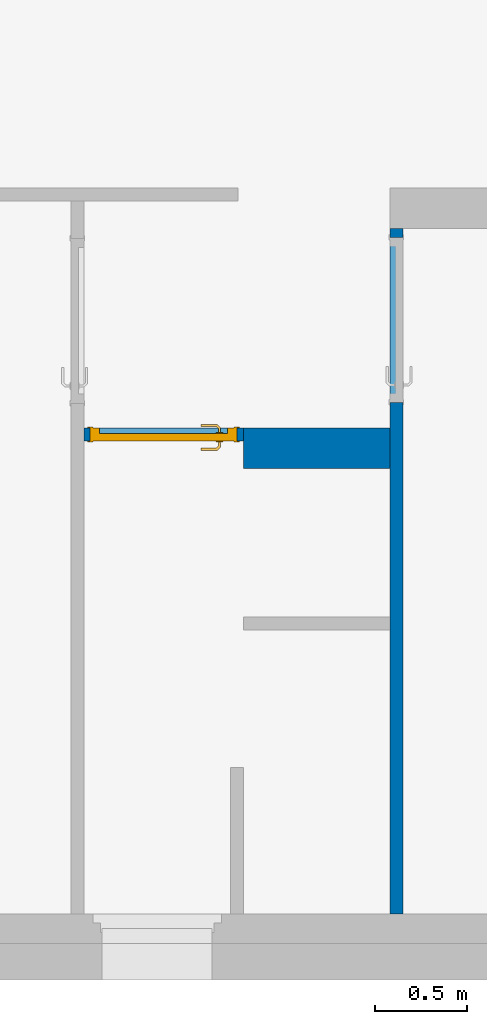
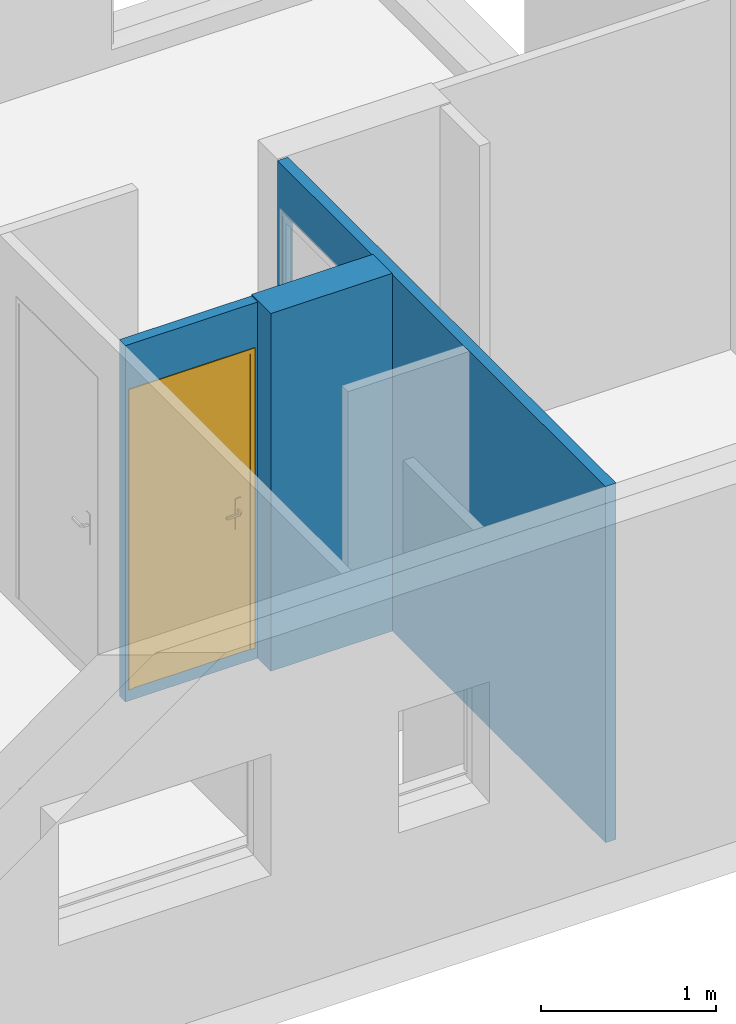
"""IFC2X3 building model written with IfcOpenShell, lengths in centimetres."""

from ifc_helpers import new_model, entity, si_unit, converted_unit, derived_unit, direction, frame, frame_2d, origin, place, context, subcontext, project, spatial, polyline, rectangle, extrude, clip, bounded_halfspace, faceted_brep, source, transform, mapped, material, material_list, layer, layer_set, layer_usage, type_object, type_shapes, element, fill, save


model = new_model("IFC2X3")

# Units and contexts
model_context = context("Model", 3, precision=0.001, world=origin(), true_north=direction((6.12303176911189e-17, 1.0)))
body_context = subcontext(model_context, "Body", "Model", "MODEL_VIEW")
ifc_project = project(units=[si_unit("LENGTHUNIT", "METRE", prefix="CENTI"), si_unit("AREAUNIT", "SQUARE_METRE"), si_unit("VOLUMEUNIT", "CUBIC_METRE"), converted_unit("PLANEANGLEUNIT", "DEGREE", entity("IfcRatioMeasure", 0.0174532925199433), si_unit("PLANEANGLEUNIT", "RADIAN"), dimensions=[0, 0, 0, 0, 0, 0, 0]), si_unit("MASSUNIT", "GRAM", prefix="KILO"), derived_unit("MASSDENSITYUNIT", [(si_unit("MASSUNIT", "GRAM", prefix="KILO"), 1), (si_unit("LENGTHUNIT", "METRE"), -3)]), derived_unit("MOMENTOFINERTIAUNIT", [(si_unit("LENGTHUNIT", "METRE"), 4)]), si_unit("TIMEUNIT", "SECOND"), si_unit("FREQUENCYUNIT", "HERTZ"), si_unit("THERMODYNAMICTEMPERATUREUNIT", "DEGREE_CELSIUS"), derived_unit("THERMALTRANSMITTANCEUNIT", [(si_unit("MASSUNIT", "GRAM", prefix="KILO"), 1), (si_unit("THERMODYNAMICTEMPERATUREUNIT", "KELVIN"), -1), (si_unit("TIMEUNIT", "SECOND"), -3)]), derived_unit("VOLUMETRICFLOWRATEUNIT", [(si_unit("LENGTHUNIT", "METRE"), 3), (si_unit("TIMEUNIT", "SECOND"), -1)]), si_unit("ELECTRICCURRENTUNIT", "AMPERE"), si_unit("ELECTRICVOLTAGEUNIT", "VOLT"), si_unit("POWERUNIT", "WATT"), si_unit("FORCEUNIT", "NEWTON", prefix="KILO"), si_unit("ILLUMINANCEUNIT", "LUX"), si_unit("LUMINOUSFLUXUNIT", "LUMEN"), si_unit("LUMINOUSINTENSITYUNIT", "CANDELA"), derived_unit("USERDEFINED", [(si_unit("MASSUNIT", "GRAM", prefix="KILO"), -1), (si_unit("LENGTHUNIT", "METRE"), -2), (si_unit("TIMEUNIT", "SECOND"), 3), (si_unit("LUMINOUSFLUXUNIT", "LUMEN"), 1)]), derived_unit("LINEARVELOCITYUNIT", [(si_unit("LENGTHUNIT", "METRE"), 1), (si_unit("TIMEUNIT", "SECOND"), -1)]), si_unit("PRESSUREUNIT", "PASCAL"), derived_unit("USERDEFINED", [(si_unit("LENGTHUNIT", "METRE"), -2), (si_unit("MASSUNIT", "GRAM", prefix="KILO"), 1), (si_unit("TIMEUNIT", "SECOND"), -2)]), derived_unit("LINEARFORCEUNIT", [(si_unit("MASSUNIT", "GRAM", prefix="KILO"), 1), (si_unit("LENGTHUNIT", "METRE"), 1), (si_unit("TIMEUNIT", "SECOND"), -2), (si_unit("LENGTHUNIT", "METRE"), -1)]), derived_unit("PLANARFORCEUNIT", [(si_unit("MASSUNIT", "GRAM", prefix="KILO"), 1), (si_unit("LENGTHUNIT", "METRE"), 1), (si_unit("TIMEUNIT", "SECOND"), -2), (si_unit("LENGTHUNIT", "METRE"), -2)])], contexts=[model_context])

# Site, building, storey
site_placement = place(None, origin())
site = spatial("IfcSite", under=ifc_project, at=site_placement, Name="Surface", CompositionType="ELEMENT")
building_placement = place(site_placement, origin())
building = spatial("IfcBuilding", under=site, at=building_placement, CompositionType="ELEMENT")
storey_1_placement = place(building_placement, frame((0.0, 0.0, -8.0)))
storey_1 = spatial("IfcBuildingStorey", under=building, at=storey_1_placement, Name="-0.08_Dessus plancher", CompositionType="ELEMENT", Elevation=-8.0)

# Wall
ifc_material_1 = material(Name="Plâtre")
ifc_layer_1 = layer(ifc_material_1, 1.0)
ifc_material_2 = material(Name="Mur par défaut")
ifc_layer_2 = layer(ifc_material_2, 20.0)
ifc_layer_3 = layer(ifc_material_1, 1.0)
ifc_layer_set_1 = layer_set([ifc_layer_1, ifc_layer_2, ifc_layer_3], Name="Mur de base:Mur refend 22")
ifc_layer_usage_1 = layer_usage(ifc_layer_set_1, "AXIS2", "NEGATIVE", 11.0)
wall_type_1 = type_object("IfcWallType", Name="Mur de base:Mur refend 22", PredefinedType="STANDARD", material=ifc_layer_set_1)
wall_1_placement = place(storey_1_placement, frame((-1075.17726031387, 130.992317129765, 0.0)))
element("IfcWallStandardCase", 1, at=wall_1_placement, inside=storey_1, type_object=wall_type_1, material=ifc_layer_usage_1, Name="Mur de base:Mur refend 22", ObjectType="Mur de base:Mur refend 22", context=body_context, shape_type="Clipping", body=[
    clip(extrude(rectangle(XDim=79.9999999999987, YDim=22.0, at=frame_2d((39.9999999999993, -4.44089209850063e-15), x_axis=(-1.0, 0.0))), origin(), (0.0, 0.0, 1.0), 249.0), bounded_halfspace(frame((0.0, -11.0, 249.0), z_axis=(0.0, 0.0, -1.0), x_axis=(0.0, -1.0, 0.0)), True, frame((0.0, -11.0, 249.0)), polyline([(0.0, 0.0), (80.0, 0.0), (80.0, 22.0), (0.0, 22.0), (0.0, 0.0)]))),
])

# Wall, openings
ifc_layer_4 = layer(ifc_material_2, 7.0)
ifc_layer_set_2 = layer_set([ifc_layer_4], Name="Mur de base:Cloison 7cm")
ifc_layer_usage_2 = layer_usage(ifc_layer_set_2, "AXIS2", "POSITIVE", -3.5)
wall_type_2 = type_object("IfcWallType", Name="Mur de base:Cloison 7cm", PredefinedType="STANDARD", material=ifc_layer_set_2)
wall_2_placement = place(storey_1_placement, frame((-991.677260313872, 250.992317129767, 0.0), z_axis=(0.0, 0.0, 1.0), x_axis=(0.0, -1.0, 0.0)))
wall_2 = element("IfcWallStandardCase", 2, at=wall_2_placement, inside=storey_1, type_object=wall_type_2, material=ifc_layer_usage_2, Name="Mur de base:Cloison 7cm", ObjectType="Mur de base:Cloison 7cm", context=body_context, shape_type="SweptSolid", body=[
    extrude(rectangle(XDim=373.999999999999, YDim=7.00000000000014, at=frame_2d((186.999999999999, -5.24025267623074e-14), x_axis=(-1.0, 0.0))), origin(), (0.0, 0.0, 1.0), 248.0),
])
opening_1_placement = place(wall_2_placement, frame((250.992317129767, 991.677260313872, 8.0), z_axis=(0.0, 0.0, 1.0), x_axis=(0.0, 1.0, 0.0)))
element("IfcOpeningElement", 3, at=opening_1_placement, cuts=wall_2, Name="Mur de base:Cloison 7cm", ObjectType="Opening", context=body_context, shape_type="SweptSolid", body=[
    extrude(rectangle(XDim=207.5, YDim=90.0, at=frame_2d((-1.4210854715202e-14, 1.4210854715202e-14), x_axis=(1.0, 0.0))), frame((-1140.57726031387, 200.992317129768, 103.75), z_axis=(1.0, 0.0, 0.0), x_axis=(0.0, 0.0, 1.0)), (0.0, 0.0, 1.0), 304.8),
])
opening_2_placement = place(wall_2_placement, frame((5.0, -3.50000000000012, 8.0)))
element("IfcOpeningElement", 4, at=opening_2_placement, cuts=wall_2, Name="Int. Simple:PP (0.83m x 2.04m):1", ObjectType="Opening", context=body_context, shape_type="SweptSolid", body=[
    extrude(rectangle(XDim=207.5, YDim=90.0, at=frame_2d((103.75, 45.0), x_axis=(1.0, 0.0))), frame((0.0, 0.0, 0.0), z_axis=(0.0, 1.0, 0.0), x_axis=(0.0, 0.0, 1.0)), (0.0, 0.0, 1.0), 7.0),
])

ifc_layer_usage_3 = layer_usage(ifc_layer_set_2, "AXIS2", "NEGATIVE", 3.5)
wall_3_placement = place(storey_1_placement, frame((-1075.17726031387, 138.492317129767, 0.0), z_axis=(0.0, 0.0, 1.0), x_axis=(-1.0, 0.0, 0.0)))
wall_3 = element("IfcWallStandardCase", 5, at=wall_3_placement, inside=storey_1, type_object=wall_type_2, material=ifc_layer_usage_3, Name="Mur de base:Cloison 7cm", ObjectType="Mur de base:Cloison 7cm", context=body_context, shape_type="SweptSolid", body=[
    extrude(rectangle(XDim=86.9999999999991, YDim=6.99999999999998, at=frame_2d((43.4999999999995, 0.0), x_axis=(-1.0, 0.0))), origin(), (0.0, 0.0, 1.0), 248.0),
])
opening_3_placement = place(wall_3_placement, frame((-1075.17726031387, 138.492317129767, 8.0), z_axis=(0.0, 0.0, 1.0), x_axis=(-1.0, 0.0, 0.0)))
element("IfcOpeningElement", 6, at=opening_3_placement, cuts=wall_3, Name="Mur de base:Cloison 7cm", ObjectType="Opening", context=body_context, shape_type="SweptSolid", body=[
    extrude(rectangle(XDim=207.5, YDim=80.0, at=frame_2d((0.0, 0.0), x_axis=(0.0, 1.0))), frame((-1118.67726031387, 287.392317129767, 103.75), z_axis=(0.0, -1.0, 0.0), x_axis=(1.0, 0.0, 0.0)), (0.0, 0.0, 1.0), 304.8),
])
opening_4_placement = place(wall_3_placement, frame((3.49999999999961, -3.50000000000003, 8.0)))
opening_4 = element("IfcOpeningElement", 7, at=opening_4_placement, cuts=wall_3, Name="Int. Simple:PP (0.73m x 2.04m):1", ObjectType="Opening", context=body_context, shape_type="SweptSolid", body=[
    extrude(rectangle(XDim=207.5, YDim=79.9999999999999, at=frame_2d((103.75, 40.0), x_axis=(1.0, 0.0))), frame((0.0, 0.0, 0.0), z_axis=(0.0, 1.0, 0.0), x_axis=(0.0, 0.0, 1.0)), (0.0, 0.0, 1.0), 7.0),
])

# Storey
storey_2_placement = place(building_placement, origin())
storey_2 = spatial("IfcBuildingStorey", under=building, at=storey_2_placement, Name="1_Rez-de-chaussée", CompositionType="ELEMENT", Elevation=-7.93413063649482e-11)

# Door
ifc_material_3 = material(Name="Finition Peinture - Blanc satiné")
ifc_material_4 = material(Name="Bois - Panneau de porte")
ifc_material_5 = material(Name="Bois - Cadre de porte")
ifc_material_list_1 = material_list([ifc_material_3, ifc_material_4, ifc_material_5])
ifc_material_list_2 = material_list([ifc_material_3, ifc_material_5, ifc_material_4])
door_style = type_object("IfcDoorStyle", Name="Int. Simple:PP (0.73m x 2.04m)", ConstructionType="NOTDEFINED", OperationType="NOTDEFINED", ParameterTakesPrecedence=False, Sizeable=False, material=ifc_material_list_2)
shared_shape = source(origin(), body_context, "Body", "Brep", [
    faceted_brep([(79.5000000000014, -0.500000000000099, 87.0), (79.5000000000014, -0.500000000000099, 108.0), (78.5352761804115, -0.500000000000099, 108.399601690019), (77.5000000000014, -0.500000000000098, 108.535898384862), (76.4647238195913, -0.500000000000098, 108.399601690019), (75.5000000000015, -0.500000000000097, 108.0), (75.5000000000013, -0.500000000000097, 87.0), (76.4647238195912, -0.500000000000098, 86.6003983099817), (77.5000000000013, -0.500000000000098, 86.464101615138), (78.5352761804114, -0.500000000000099, 86.6003983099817), (79.5000000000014, 0.0, 108.0), (79.5000000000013, 0.0, 87.0), (78.5352761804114, 0.0, 86.6003983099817), (77.5000000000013, 0.0, 86.464101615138), (76.4647238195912, 0.0, 86.6003983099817), (75.5000000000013, 0.0, 87.0), (75.5000000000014, 0.0, 108.0), (76.4647238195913, 0.0, 108.399601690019), (77.5000000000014, 0.0, 108.535898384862), (78.5352761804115, 0.0, 108.399601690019)], [[[0, 1, 2, 3, 4, 5, 6, 7, 8, 9]], [[10, 11, 12, 13, 14, 15, 16, 17, 18, 19]], [[9, 12, 11, 0]], [[8, 13, 12, 9]], [[7, 14, 13, 8]], [[7, 6, 15, 14]], [[15, 6, 5, 16]], [[4, 17, 16, 5]], [[3, 18, 17, 4]], [[2, 19, 18, 3]], [[2, 1, 10, 19]], [[11, 10, 1, 0]]]),
    faceted_brep([(79.5000000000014, 4.0, 87.0), (79.5000000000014, 4.0, 108.0), (78.5352761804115, 4.0, 108.399601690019), (77.5000000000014, 4.0, 108.535898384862), (76.4647238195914, 4.0, 108.399601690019), (75.5000000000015, 4.0, 108.0), (75.5000000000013, 4.0, 87.0), (76.4647238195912, 4.0, 86.6003983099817), (77.5000000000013, 4.0, 86.464101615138), (78.5352761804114, 4.0, 86.6003983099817), (77.5000000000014, 4.4999999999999, 108.535898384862), (78.5352761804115, 4.4999999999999, 108.399601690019), (79.5000000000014, 4.4999999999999, 108.0), (79.5000000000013, 4.4999999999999, 87.0), (78.5352761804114, 4.4999999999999, 86.6003983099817), (77.5000000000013, 4.4999999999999, 86.464101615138), (76.4647238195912, 4.4999999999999, 86.6003983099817), (75.5000000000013, 4.4999999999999, 87.0), (75.5000000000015, 4.4999999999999, 108.0), (76.4647238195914, 4.4999999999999, 108.399601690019)], [[[0, 1, 2, 3, 4, 5, 6, 7, 8, 9]], [[10, 11, 12, 13, 14, 15, 16, 17, 18, 19]], [[4, 19, 18, 5]], [[3, 10, 19, 4]], [[2, 11, 10, 3]], [[2, 1, 12, 11]], [[13, 12, 1, 0]], [[9, 14, 13, 0]], [[8, 15, 14, 9]], [[7, 16, 15, 8]], [[7, 6, 17, 16]], [[17, 6, 5, 18]]]),
    faceted_brep([(77.2974701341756, -0.500000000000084, 100.778044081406), (77.7025298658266, -0.500000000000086, 100.778044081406), (78.1000000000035, -0.500000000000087, 100.699999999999), (78.1000000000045, -0.500000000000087, 99.2999999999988), (77.7025298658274, -0.500000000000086, 99.221955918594), (77.2974701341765, -0.500000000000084, 99.2219559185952), (76.8999999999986, -0.500000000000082, 99.3000000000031), (76.8999999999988, -0.500000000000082, 100.7), (77.7025298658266, -3.10045754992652, 100.778044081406), (78.1000000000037, -3.26509507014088, 100.7), (77.2974701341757, -2.93267631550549, 100.778044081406), (75.9298602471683, -4.30028620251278, 100.778044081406), (76.0976414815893, -4.7053459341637, 100.778044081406), (76.8999999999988, -2.76803879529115, 100.7), (76.8999999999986, -2.76803879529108, 99.3000000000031), (77.2974701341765, -2.93267631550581, 99.2219559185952), (77.7025298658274, -3.10045754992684, 99.221955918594), (76.0976414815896, -4.70534593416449, 99.221955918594), (75.9298602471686, -4.30028620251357, 99.2219559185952), (78.1000000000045, -3.26509507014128, 99.2999999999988), (76.2622790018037, -5.1028160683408, 100.7), (75.7652227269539, -3.90281606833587, 100.7), (75.7652227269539, -3.90281606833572, 99.3000000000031), (76.262279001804, -5.10281606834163, 99.2999999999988), (67.4981359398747, -5.10281606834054, 100.7), (67.4981359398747, -4.70534593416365, 100.778044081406), (67.4981359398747, -4.30028620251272, 100.778044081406), (67.4981359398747, -3.90281606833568, 100.699999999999), (67.4981359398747, -3.90281606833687, 99.3000000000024), (67.4981359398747, -4.30028620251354, 99.2219559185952), (67.4981359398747, -4.70534593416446, 99.221955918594), (67.4981359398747, -5.10281606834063, 99.2999999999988), (71.713998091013, -4.50281606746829, 100.78786867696), (72.2692302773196, -5.10281606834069, 100.7), (71.6316793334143, -3.90281606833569, 100.7), (71.6316793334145, -3.90281606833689, 99.3000000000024), (71.7139981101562, -4.50281607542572, 99.2121313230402), (72.2692310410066, -5.10281606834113, 99.2999999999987)], [[[0, 1, 2, 3, 4, 5, 6, 7]], [[2, 1, 8, 9]], [[1, 0, 10, 11, 12, 8]], [[0, 7, 13, 10]], [[14, 13, 7, 6]], [[5, 15, 14, 6]], [[5, 4, 16, 17, 18, 15]], [[3, 19, 16, 4]], [[9, 19, 3, 2]], [[9, 8, 12, 20]], [[10, 13, 21, 11]], [[22, 21, 13, 14]], [[14, 15, 18, 22]], [[16, 19, 23, 17]], [[20, 23, 19, 9]], [[24, 25, 26, 27, 28, 29, 30, 31]], [[32, 25, 33]], [[33, 25, 24]], [[33, 20, 12]], [[11, 34, 32]], [[34, 11, 21]], [[27, 26, 34]], [[32, 26, 25]], [[32, 34, 26]], [[32, 33, 12]], [[11, 32, 12]], [[21, 22, 35, 28, 27, 34]], [[36, 29, 35]], [[30, 36, 37]], [[18, 35, 22]], [[29, 28, 35]], [[30, 37, 31]], [[37, 17, 23]], [[36, 17, 37]], [[36, 18, 17]], [[36, 35, 18]], [[29, 36, 30]], [[23, 20, 33, 24, 31, 37]]]),
    faceted_brep([(77.2974701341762, 4.49999999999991, 99.2219559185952), (77.7025298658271, 4.49999999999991, 99.221955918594), (78.1000000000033, 4.49999999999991, 99.2999999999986), (78.1000000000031, 4.49999999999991, 100.7), (77.7025298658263, 4.49999999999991, 100.778044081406), (77.2974701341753, 4.49999999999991, 100.778044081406), (76.8999999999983, 4.49999999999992, 100.7), (76.8999999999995, 4.49999999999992, 99.3000000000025), (76.8999999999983, 6.74852045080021, 100.7), (76.8999999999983, 6.74852045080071, 99.3000000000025), (77.2974701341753, 6.91315797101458, 100.778044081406), (77.7025298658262, 7.0809392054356, 100.778044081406), (76.0838906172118, 8.69957845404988, 100.778044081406), (75.9161093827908, 8.29451872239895, 100.778044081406), (78.1000000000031, 7.24557672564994, 100.7), (78.1000000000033, 7.24557672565, 99.2999999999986), (77.7025298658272, 7.08093920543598, 99.221955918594), (77.2974701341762, 6.91315797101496, 99.2219559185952), (75.9161093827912, 8.29451872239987, 99.2219559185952), (76.0838906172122, 8.69957845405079, 99.221955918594), (75.7514718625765, 7.89704858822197, 100.7), (75.7514718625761, 7.89704858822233, 99.3000000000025), (76.2485281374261, 9.09704858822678, 100.7), (76.2485281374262, 9.09704858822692, 99.2999999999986), (67.4954216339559, 8.29451872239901, 100.778044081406), (67.4954216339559, 8.69957845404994, 100.778044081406), (67.4954216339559, 9.09704858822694, 100.7), (67.4954216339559, 9.09704858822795, 99.2999999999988), (67.4954216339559, 8.69957845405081, 99.221955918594), (67.4954216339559, 8.29451872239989, 99.2219559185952), (67.4954216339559, 7.897048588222, 99.3000000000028), (67.4954216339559, 7.89704858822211, 100.7), (71.6234467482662, 7.89704858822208, 100.7), (71.6234479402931, 7.89704858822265, 99.3000000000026), (71.7057655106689, 8.49704858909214, 100.78786867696), (72.2554794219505, 9.09704858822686, 100.7), (72.2554795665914, 9.09704858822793, 99.2999999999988), (71.7057654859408, 8.49704858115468, 99.2121313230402)], [[[0, 1, 2, 3, 4, 5, 6, 7]], [[8, 9, 7, 6]], [[5, 10, 8, 6]], [[5, 4, 11, 12, 13, 10]], [[3, 14, 11, 4]], [[14, 3, 2, 15]], [[2, 1, 16, 15]], [[1, 0, 17, 18, 19, 16]], [[0, 7, 9, 17]], [[20, 21, 9, 8]], [[8, 10, 13, 20]], [[14, 22, 12, 11]], [[23, 22, 14, 15]], [[15, 16, 19, 23]], [[17, 9, 21, 18]], [[24, 25, 26, 27, 28, 29, 30, 31]], [[21, 20, 32, 31, 30, 33]], [[34, 24, 32]], [[25, 34, 35]], [[13, 32, 20]], [[24, 31, 32]], [[25, 35, 26]], [[35, 12, 22]], [[34, 12, 35]], [[34, 13, 12]], [[34, 32, 13]], [[24, 34, 25]], [[22, 23, 36, 27, 26, 35]], [[37, 28, 36]], [[36, 28, 27]], [[36, 23, 19]], [[18, 33, 37]], [[33, 18, 21]], [[30, 29, 33]], [[37, 29, 28]], [[37, 33, 29]], [[37, 36, 19]], [[18, 37, 19]]]),
    faceted_brep([(83.5000000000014, 4.0, 204.0), (83.5000000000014, 4.0, 0.0), (10.5000000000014, 4.0, 0.0), (10.5000000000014, 4.0, 204.0), (83.5000000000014, 0.0, 204.0), (10.5000000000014, 0.0, 204.0), (10.5000000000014, 0.0, 0.0), (83.5000000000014, 0.0, 0.0)], [[[0, 1, 2, 3]], [[4, 5, 6, 7]], [[3, 5, 4, 0]], [[2, 6, 5, 3]], [[1, 7, 6, 2]], [[0, 4, 7, 1]]]),
    faceted_brep([(87.0, 0.0, 0.0), (83.5000000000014, 0.0, 0.0), (83.5000000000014, 4.0, 0.0), (82.0, 4.0, 0.0), (82.0, 7.0, 0.0), (87.0, 7.0, 0.0), (87.0, 7.0, 207.500000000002), (87.0, 0.0, 207.500000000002), (82.0, 7.0, 202.5), (12.0, 7.0, 202.5), (12.0, 7.0, 0.0), (7.0, 7.0, 0.0), (7.0, 7.0, 207.500000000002), (82.0, 4.0, 202.5), (83.5000000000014, 4.0, 204.0), (10.5000000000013, 4.0, 204.0), (10.5000000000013, 4.0, 0.0), (12.0, 4.0, 0.0), (12.0, 4.0, 202.5), (83.5000000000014, 0.0, 204.0), (7.0, 0.0, 207.500000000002), (7.0, 0.0, 0.0), (10.5000000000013, 0.0, 0.0), (10.5000000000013, 0.0, 204.0)], [[[0, 1, 2, 3, 4, 5]], [[5, 6, 7, 0]], [[4, 8, 9, 10, 11, 12, 6, 5]], [[3, 13, 8, 4]], [[2, 14, 15, 16, 17, 18, 13, 3]], [[1, 19, 14, 2]], [[0, 7, 20, 21, 22, 23, 19, 1]], [[12, 11, 21, 20]], [[21, 11, 10, 17, 16, 22]], [[18, 17, 10, 9]], [[23, 22, 16, 15]], [[6, 12, 20, 7]], [[13, 18, 9, 8]], [[19, 23, 15, 14]]]),
    faceted_brep([(85.5000000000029, 7.0, 0.0), (85.5000000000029, 7.49999999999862, 0.0), (88.5000000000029, 7.49999999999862, 0.0), (88.5000000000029, 7.0, 0.0), (88.5000000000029, 7.0, 209.0), (5.50000000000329, 7.0, 209.0), (5.5000000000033, 7.0, 0.0), (8.50000000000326, 7.0, 0.0), (8.50000000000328, 7.0, 206.0), (85.5000000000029, 7.0, 206.0), (88.5000000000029, 7.49999999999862, 209.0), (85.5000000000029, 7.49999999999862, 206.0), (8.50000000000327, 7.49999999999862, 206.0), (8.50000000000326, 7.49999999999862, 0.0), (5.5000000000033, 7.49999999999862, 0.0), (5.50000000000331, 7.49999999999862, 209.0)], [[[0, 1, 2, 3]], [[3, 4, 5, 6, 7, 8, 9, 0]], [[2, 10, 4, 3]], [[1, 11, 12, 13, 14, 15, 10, 2]], [[0, 9, 11, 1]], [[7, 6, 14, 13]], [[8, 7, 13, 12]], [[15, 14, 6, 5]], [[10, 15, 5, 4]], [[9, 8, 12, 11]]]),
    faceted_brep([(88.5000000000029, -0.5, 0.0), (88.5000000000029, -0.5, 209.0), (5.50000000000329, -0.5, 209.0), (5.5000000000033, -0.5, 0.0), (8.50000000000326, -0.5, 0.0), (8.50000000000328, -0.5, 206.0), (85.5000000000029, -0.5, 206.0), (85.5000000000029, -0.5, 0.0), (88.5000000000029, 0.0, 0.0), (88.5000000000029, 0.0, 209.0), (85.5000000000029, 0.0, 0.0), (85.5000000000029, 0.0, 206.0), (8.50000000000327, 0.0, 206.0), (8.50000000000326, 0.0, 0.0), (5.5000000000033, 0.0, 0.0), (5.50000000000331, 0.0, 209.0)], [[[0, 1, 2, 3, 4, 5, 6, 7]], [[8, 9, 1, 0]], [[10, 11, 12, 13, 14, 15, 9, 8]], [[7, 6, 11, 10]], [[5, 4, 13, 12]], [[15, 14, 3, 2]], [[9, 15, 2, 1]], [[6, 5, 12, 11]], [[4, 3, 14, 13]], [[7, 10, 8, 0]]]),
])
type_shapes(door_style, [shared_shape])
door_placement = place(opening_4_placement, frame((87.0, 7.0, 0.0), z_axis=(0.0, 0.0, 1.0), x_axis=(-1.0, 0.0, 0.0)))
door = element("IfcDoor", 8, at=door_placement, inside=storey_2, type_object=door_style, material=ifc_material_list_1, Name="Int. Simple:PP (0.73m x 2.04m)", ObjectType="Int. Simple:PP (0.73m x 2.04m)", OverallHeight=207.5, OverallWidth=80.0, context=body_context, shape_type="MappedRepresentation", body=[
    mapped(shared_shape, transform((0.0, 0.0, 0.0), scale=1.0)),
])

fill(opening_4, door)

save(model, "model.ifc")
